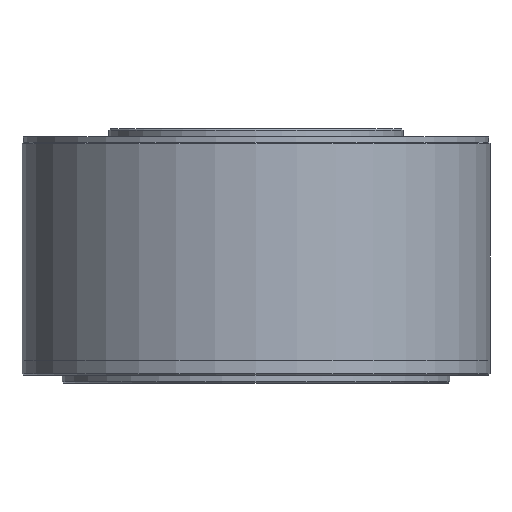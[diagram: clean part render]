
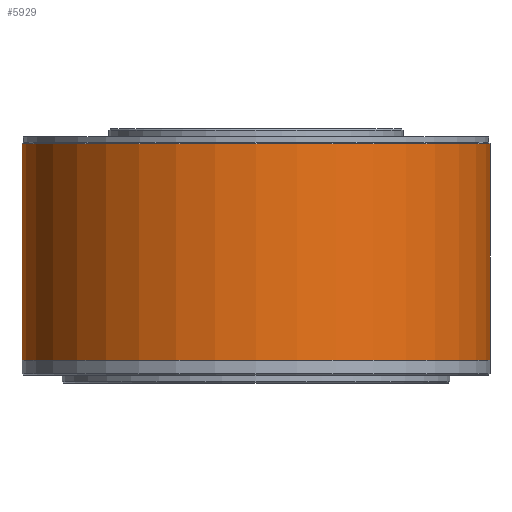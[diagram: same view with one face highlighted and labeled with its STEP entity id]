
A CAD part, front view. The second image highlights one B-rep face of the part: STEP entity #5929.
In plain terms, the highlighted cylindrical face has radius 87.5 mm (diameter 175 mm), a partial arc.
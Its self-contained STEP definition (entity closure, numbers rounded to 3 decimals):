
#2853=CARTESIAN_POINT('',(0.,0.,89.5));
#2854=DIRECTION('',(0.,0.,1.));
#2855=DIRECTION('',(-1.,0.,0.));
#2856=AXIS2_PLACEMENT_3D('',#2853,#2854,#2855);
#2863=DIRECTION('',(0.,0.,1.));
#2864=VECTOR('',#2863,80.999);
#2865=CARTESIAN_POINT('',(87.5,0.,8.501));
#2866=LINE('',#2865,#2864);
#2867=DIRECTION('',(0.,0.,1.));
#2868=VECTOR('',#2867,80.999);
#2869=CARTESIAN_POINT('',(-87.5,0.,8.501));
#2870=LINE('',#2869,#2868);
#2888=CARTESIAN_POINT('',(0.,0.,8.501));
#2889=DIRECTION('',(0.,0.,-1.));
#2890=DIRECTION('',(1.,0.,0.));
#2891=AXIS2_PLACEMENT_3D('',#2888,#2889,#2890);
#5365=CARTESIAN_POINT('',(87.5,0.,89.5));
#5366=CARTESIAN_POINT('',(-87.5,0.,89.5));
#5367=VERTEX_POINT('',#5365);
#5368=VERTEX_POINT('',#5366);
#5471=CARTESIAN_POINT('',(87.5,0.,8.501));
#5472=VERTEX_POINT('',#5471);
#5479=CARTESIAN_POINT('',(-87.5,0.,8.501));
#5480=VERTEX_POINT('',#5479);
#5915=CARTESIAN_POINT('',(0.,0.,80.5));
#5916=DIRECTION('',(0.,0.,-1.));
#5917=DIRECTION('',(-1.,0.,0.));
#5918=AXIS2_PLACEMENT_3D('',#5915,#5916,#5917);
#5919=CYLINDRICAL_SURFACE('',#5918,87.5);
#5921=ORIENTED_EDGE('',*,*,#5920,.F.);
#5923=ORIENTED_EDGE('',*,*,#5922,.T.);
#5925=ORIENTED_EDGE('',*,*,#5924,.T.);
#5926=ORIENTED_EDGE('',*,*,#5908,.T.);
#5927=EDGE_LOOP('',(#5921,#5923,#5925,#5926));
#5928=FACE_OUTER_BOUND('',#5927,.F.);
#5929=ADVANCED_FACE('',(#5928),#5919,.T.);
#2857=CIRCLE('',#2856,87.5);
#2892=CIRCLE('',#2891,87.5);
#5908=EDGE_CURVE('',#5368,#5367,#2857,.T.);
#5920=EDGE_CURVE('',#5472,#5367,#2866,.T.);
#5922=EDGE_CURVE('',#5472,#5480,#2892,.T.);
#5924=EDGE_CURVE('',#5480,#5368,#2870,.T.);
